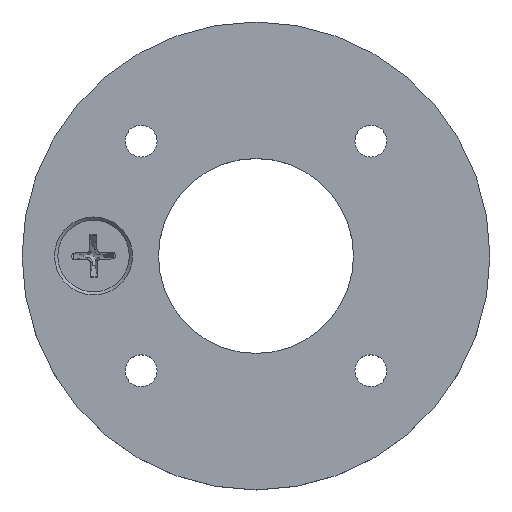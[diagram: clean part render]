
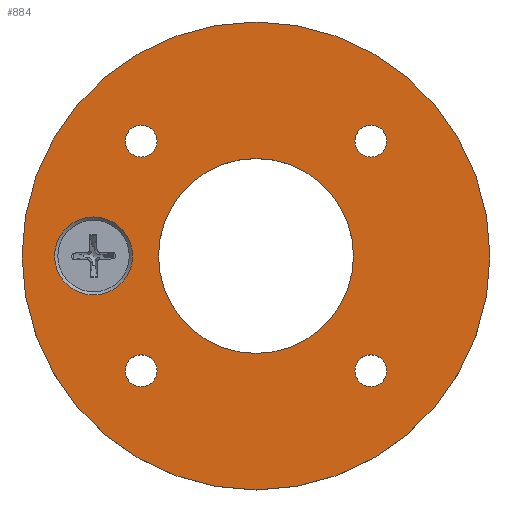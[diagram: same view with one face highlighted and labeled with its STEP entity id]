
A CAD part, top view. The second image highlights one B-rep face of the part: STEP entity #884.
In plain terms, the highlighted planar face has unit normal (0, 0, 1).
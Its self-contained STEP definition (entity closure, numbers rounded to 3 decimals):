
#18=FACE_BOUND('',#186,.T.);
#19=FACE_BOUND('',#187,.T.);
#20=FACE_BOUND('',#188,.T.);
#21=FACE_BOUND('',#189,.T.);
#22=FACE_BOUND('',#190,.T.);
#23=FACE_BOUND('',#191,.T.);
#68=PLANE('',#1009);
#132=FACE_OUTER_BOUND('',#185,.T.);
#185=EDGE_LOOP('',(#759));
#186=EDGE_LOOP('',(#760));
#187=EDGE_LOOP('',(#761));
#188=EDGE_LOOP('',(#762));
#189=EDGE_LOOP('',(#763));
#190=EDGE_LOOP('',(#764));
#191=EDGE_LOOP('',(#765));
#329=CIRCLE('',#990,3.);
#330=CIRCLE('',#992,1.23);
#332=CIRCLE('',#995,1.23);
#334=CIRCLE('',#998,1.23);
#336=CIRCLE('',#1001,1.23);
#339=CIRCLE('',#1005,7.5);
#340=CIRCLE('',#1007,18.);
#406=VERTEX_POINT('',#1590);
#407=VERTEX_POINT('',#1594);
#409=VERTEX_POINT('',#1600);
#411=VERTEX_POINT('',#1606);
#413=VERTEX_POINT('',#1612);
#416=VERTEX_POINT('',#1620);
#417=VERTEX_POINT('',#1624);
#517=EDGE_CURVE('',#406,#406,#329,.T.);
#519=EDGE_CURVE('',#407,#407,#330,.T.);
#522=EDGE_CURVE('',#409,#409,#332,.T.);
#525=EDGE_CURVE('',#411,#411,#334,.T.);
#528=EDGE_CURVE('',#413,#413,#336,.T.);
#533=EDGE_CURVE('',#416,#416,#339,.T.);
#534=EDGE_CURVE('',#417,#417,#340,.T.);
#759=ORIENTED_EDGE('',*,*,#534,.F.);
#760=ORIENTED_EDGE('',*,*,#517,.T.);
#761=ORIENTED_EDGE('',*,*,#519,.T.);
#762=ORIENTED_EDGE('',*,*,#522,.T.);
#763=ORIENTED_EDGE('',*,*,#525,.T.);
#764=ORIENTED_EDGE('',*,*,#528,.T.);
#765=ORIENTED_EDGE('',*,*,#533,.T.);
#884=ADVANCED_FACE('',(#132,#18,#19,#20,#21,#22,#23),#68,.F.);
#990=AXIS2_PLACEMENT_3D('',#1591,#1213,#1214);
#992=AXIS2_PLACEMENT_3D('',#1595,#1218,#1219);
#995=AXIS2_PLACEMENT_3D('',#1601,#1225,#1226);
#998=AXIS2_PLACEMENT_3D('',#1607,#1232,#1233);
#1001=AXIS2_PLACEMENT_3D('',#1613,#1239,#1240);
#1005=AXIS2_PLACEMENT_3D('',#1622,#1249,#1250);
#1007=AXIS2_PLACEMENT_3D('',#1625,#1253,#1254);
#1009=AXIS2_PLACEMENT_3D('',#1629,#1258,#1259);
#1213=DIRECTION('center_axis',(0.,0.,-1.));
#1214=DIRECTION('ref_axis',(1.,0.,0.));
#1218=DIRECTION('center_axis',(0.,0.,-1.));
#1219=DIRECTION('ref_axis',(1.,0.,0.));
#1225=DIRECTION('center_axis',(0.,0.,-1.));
#1226=DIRECTION('ref_axis',(1.,0.,0.));
#1232=DIRECTION('center_axis',(0.,0.,-1.));
#1233=DIRECTION('ref_axis',(1.,0.,0.));
#1239=DIRECTION('center_axis',(0.,0.,-1.));
#1240=DIRECTION('ref_axis',(1.,0.,0.));
#1249=DIRECTION('center_axis',(0.,0.,-1.));
#1250=DIRECTION('ref_axis',(-1.,0.,0.));
#1253=DIRECTION('center_axis',(0.,0.,-1.));
#1254=DIRECTION('ref_axis',(-1.,0.,0.));
#1258=DIRECTION('center_axis',(0.,0.,-1.));
#1259=DIRECTION('ref_axis',(-1.,0.,0.));
#1590=CARTESIAN_POINT('',(-15.5,0.,4.));
#1591=CARTESIAN_POINT('Origin',(-12.5,0.,4.));
#1594=CARTESIAN_POINT('',(-10.068,8.839,4.));
#1595=CARTESIAN_POINT('Origin',(-8.839,8.839,4.));
#1600=CARTESIAN_POINT('',(7.609,8.839,4.));
#1601=CARTESIAN_POINT('Origin',(8.839,8.839,4.));
#1606=CARTESIAN_POINT('',(7.609,-8.839,4.));
#1607=CARTESIAN_POINT('Origin',(8.839,-8.839,4.));
#1612=CARTESIAN_POINT('',(-10.068,-8.839,4.));
#1613=CARTESIAN_POINT('Origin',(-8.839,-8.839,4.));
#1620=CARTESIAN_POINT('',(7.5,0.,4.));
#1622=CARTESIAN_POINT('Origin',(0.,0.,4.));
#1624=CARTESIAN_POINT('',(18.,0.,4.));
#1625=CARTESIAN_POINT('Origin',(0.,0.,4.));
#1629=CARTESIAN_POINT('Origin',(0.,0.,4.));
